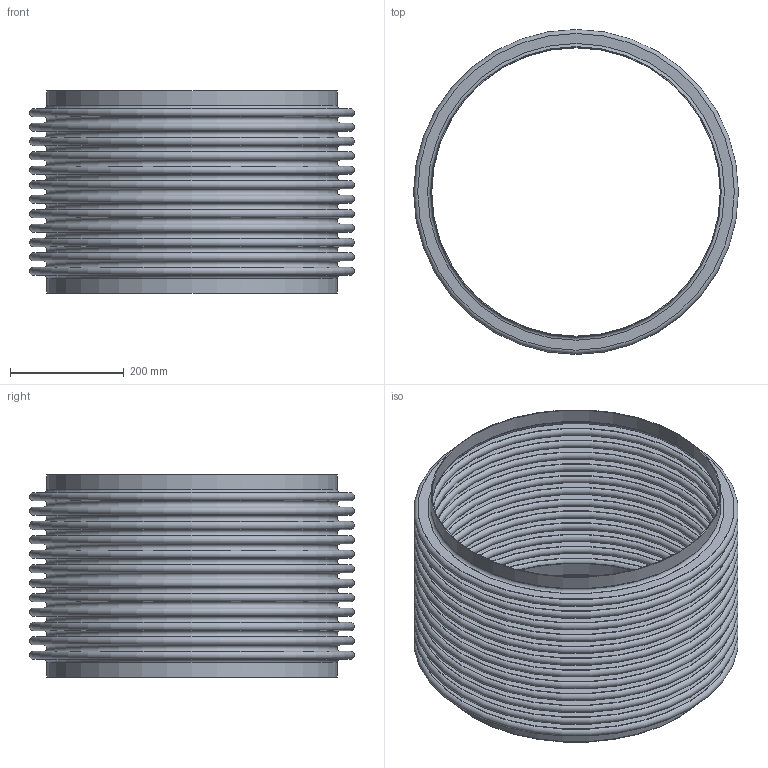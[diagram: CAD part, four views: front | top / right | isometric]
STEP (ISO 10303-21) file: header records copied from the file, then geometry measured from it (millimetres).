
FILE_DESCRIPTION(/* description */ ('STOCK BELLOWS: U.S-20-12-150L, 20.000 I.D., 22.500 O.D., 1 PLY, 16 GA (0.060 THICK), 12 CONS., 1.000 PITCH, 1.000 TANGENT. '),/* implementation_level */ '2;1');
FILE_NAME(/* name */ 'STOCK BELLOW - US-20-12-150L.stp',/* time_stamp */ '2026-07-21T13:06:19-05:00',/* author */ ('KennethB'),/* organization */ (''),/* preprocessor_version */ 'ST-DEVELOPER v20.1',/* originating_system */ 'Autodesk Inventor 2026',/* authorisation */ '');
FILE_SCHEMA (('AUTOMOTIVE_DESIGN { 1 0 10303 214 3 1 1 }'));
Length unit declared in the file: inch
Products named in the file (1): STOCK BELLOW - US-20-12-150L
Bounding box: 571.5 x 571.5 x 355.6 mm (x, y, z)
Volume: 2448170.1 mm3; surface area: 3227458.5 mm2
Topology: 3 solids, 3 shells, 108 faces, 162 edges, 109 vertices
Faces by surface type: plane 54, torus 50, cylinder 4
Full cylindrical faces by diameter (mm): 508 x2, 511.048 x2
Entity records: 2550 total; most frequent: DIRECTION 538, CARTESIAN_POINT 380, ORIENTED_EDGE 324, AXIS2_PLACEMENT_3D 267, EDGE_LOOP 162, EDGE_CURVE 162, CIRCLE 158, FACE_OUTER_BOUND 108
